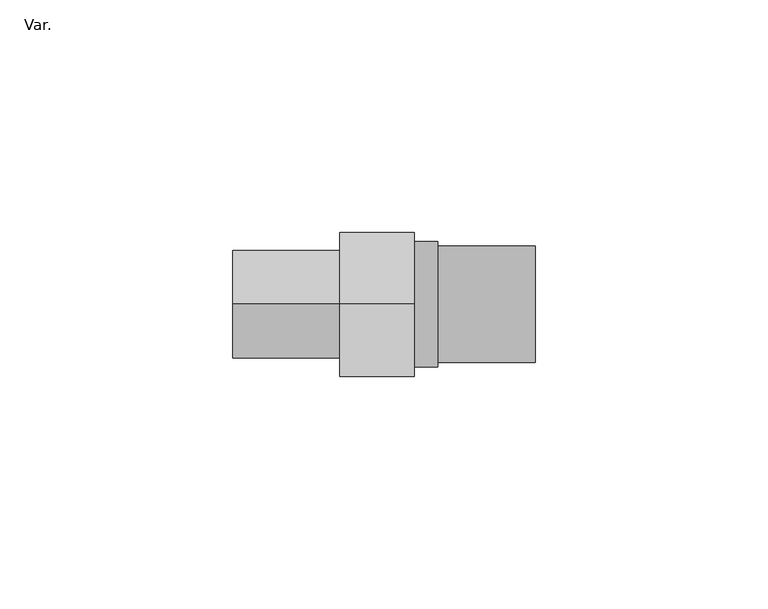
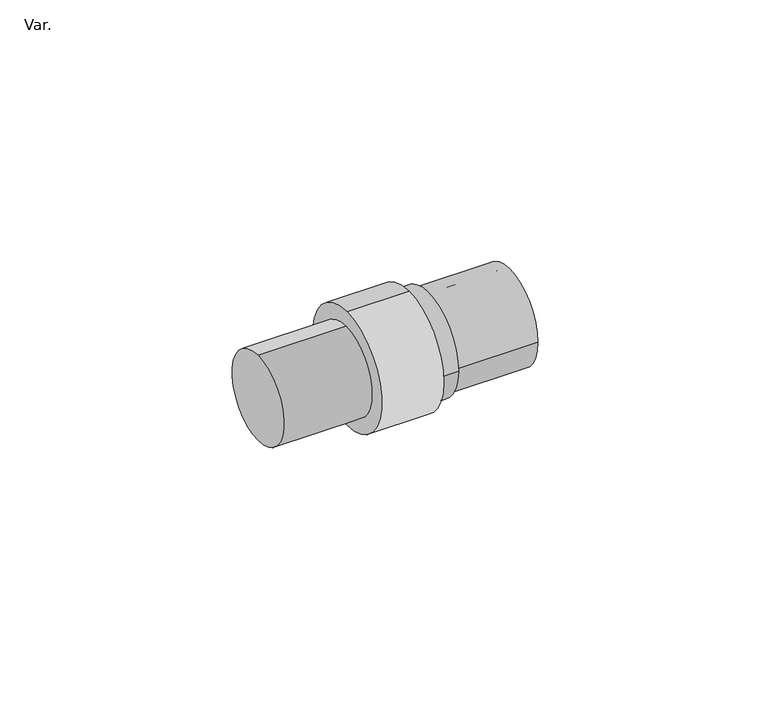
"""IFC4 building model written with IfcOpenShell, lengths in millimetres: pipe fitting geometry, Z_PIF_Tigris_Manifold_Adaptor_K5_MMT_Wavin_(nested) : Var.."""

from ifc_helpers import new_model, si_unit, point, frame, origin, origin_2d, place, context, project, spatial, circle_curve, trimmed, segment, composite_curve, outline, extrude, source, transform, mapped, element, save


def var_4f26fd76(model_context):
    return source(origin(), model_context, "Body", "SweptSolid", [
        extrude(outline(composite_curve([segment(trimmed(circle_curve(origin_2d(), 13.45), [point((13.45, 0.0))], [point((-13.45, 0.0))], False, "CARTESIAN"), True, "CONTINUOUS"), segment(trimmed(circle_curve(origin_2d(), 13.45), [point((-13.45, 0.0))], [point((13.45, 0.0))], False, "CARTESIAN"), True, "CONTINUOUS")], self_intersect=False)), frame((0.0, 0.0, 0.0), z_axis=(1.0, 0.0, 0.0), x_axis=(0.0, 1.0, 0.0)), (0.0, 0.0, 1.0), 5.0),
        extrude(outline(composite_curve([segment(trimmed(circle_curve(origin_2d(), 12.5), [point((12.5, 0.0))], [point((-12.5, 0.0))], False, "CARTESIAN"), True, "CONTINUOUS"), segment(trimmed(circle_curve(origin_2d(), 12.5), [point((-12.5, 0.0))], [point((12.5, 0.0))], False, "CARTESIAN"), True, "CONTINUOUS")], self_intersect=False), holes=[composite_curve([segment(trimmed(circle_curve(origin_2d(), 10.2), [point((10.2, 0.0))], [point((-10.2, 0.0))], True, "CARTESIAN"), True, "CONTINUOUS"), segment(trimmed(circle_curve(origin_2d(), 10.2), [point((-10.2, 0.0))], [point((10.2, 0.0))], True, "CARTESIAN"), True, "CONTINUOUS")], self_intersect=False)]), frame((5.0, 0.0, 0.0), z_axis=(1.0, 0.0, 0.0), x_axis=(0.0, 1.0, 0.0)), (0.0, 0.0, 1.0), 21.0),
        extrude(outline(composite_curve([segment(trimmed(circle_curve(origin_2d(), 7.9), [point((7.9, 0.0))], [point((-7.9, 0.0))], False, "CARTESIAN"), True, "CONTINUOUS"), segment(trimmed(circle_curve(origin_2d(), 7.9), [point((-7.9, 0.0))], [point((7.9, 0.0))], False, "CARTESIAN"), True, "CONTINUOUS")], self_intersect=False), holes=[composite_curve([segment(trimmed(circle_curve(origin_2d(), 5.6), [point((5.6, 0.0))], [point((-5.6, 0.0))], True, "CARTESIAN"), True, "CONTINUOUS"), segment(trimmed(circle_curve(origin_2d(), 5.6), [point((-5.6, 0.0))], [point((5.6, 0.0))], True, "CARTESIAN"), True, "CONTINUOUS")], self_intersect=False)]), frame((0.0, 0.0, 0.0), z_axis=(1.0, 0.0, 0.0), x_axis=(0.0, 1.0, 0.0)), (0.0, 0.0, 1.0), 26.0),
        extrude(outline(composite_curve([segment(trimmed(circle_curve(origin_2d(), 15.5), [point((0.0, 15.5))], [point((0.0, -15.5))], False, "CARTESIAN"), True, "CONTINUOUS"), segment(trimmed(circle_curve(origin_2d(), 15.5), [point((0.0, -15.5))], [point((0.0, 15.5))], False, "CARTESIAN"), True, "CONTINUOUS")], self_intersect=False)), frame((-16.0, 0.0, 0.0), z_axis=(1.0, 0.0, 0.0), x_axis=(0.0, 1.0, 0.0)), (0.0, 0.0, 1.0), 16.0),
        extrude(outline(composite_curve([segment(trimmed(circle_curve(origin_2d(), 11.6), [point((0.0, -11.6))], [point((0.0, 11.6))], False, "CARTESIAN"), True, "CONTINUOUS"), segment(trimmed(circle_curve(origin_2d(), 11.6), [point((0.0, 11.6))], [point((0.0, -11.6))], False, "CARTESIAN"), True, "CONTINUOUS")], self_intersect=False)), frame((-39.0, 0.0, 0.0), z_axis=(1.0, 0.0, 0.0), x_axis=(0.0, 1.0, 0.0)), (0.0, 0.0, 1.0), 23.0),
    ])


if __name__ == "__main__":
    model = new_model("IFC4")
    model_context = context("Model", 3, world=origin())
    ifc_project = project(units=[si_unit("LENGTHUNIT", "METRE", prefix="MILLI")], contexts=[model_context])
    site = spatial("IfcSite", under=ifc_project)
    building = spatial("IfcBuilding", under=site)
    placement = place(None, origin())
    var_shape = var_4f26fd76(model_context)
    element("IfcPipeFitting", 1, ObjectType="Z_PIF_Tigris_Manifold_Adaptor_K5_MMT_Wavin_(nested) : Var.", at=placement, inside=building, context=model_context, shape_type="MappedRepresentation", body=[
        mapped(var_shape, transform((0.0, 0.0, 0.0), x_axis=(1.0, 0.0, 0.0), y_axis=(0.0, 1.0, 0.0), z_axis=(0.0, 0.0, 1.0))),
    ])
    save(model, "model.ifc")
